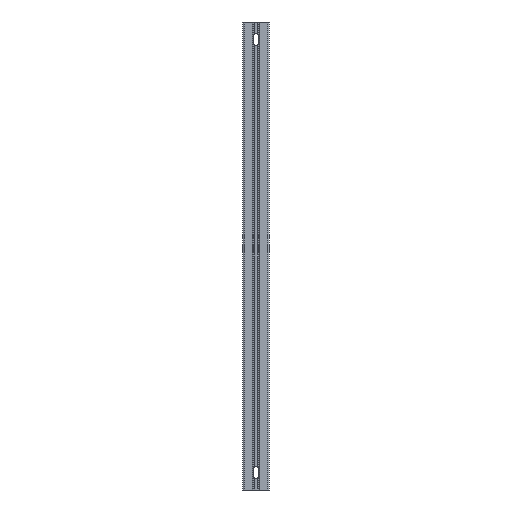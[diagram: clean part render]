
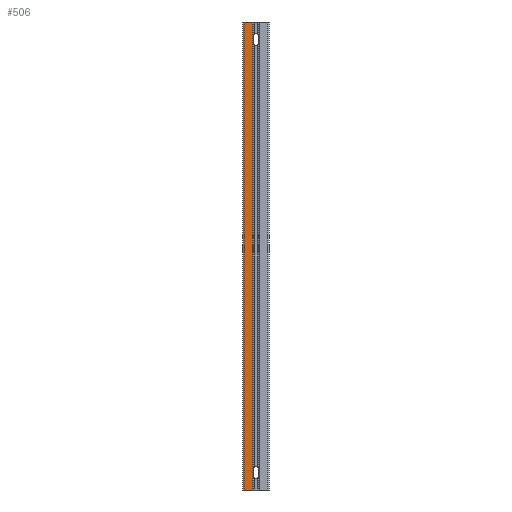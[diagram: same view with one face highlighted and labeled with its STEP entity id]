
A CAD part, left-side view. The second image highlights one B-rep face of the part: STEP entity #506.
In plain terms, the highlighted planar face has unit normal (-1, 0, 0).
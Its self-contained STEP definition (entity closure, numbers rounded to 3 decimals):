
#290=PLANE('',#4869);
#506=ADVANCED_FACE('',(#828),#290,.T.);
#828=FACE_OUTER_BOUND('',#1052,.T.);
#1052=EDGE_LOOP('',(#1548,#1549,#1550,#1551));
#1548=ORIENTED_EDGE('',*,*,#3357,.F.);
#1549=ORIENTED_EDGE('',*,*,#3358,.F.);
#1550=ORIENTED_EDGE('',*,*,#3359,.T.);
#1551=ORIENTED_EDGE('',*,*,#3355,.T.);
#2844=VERTEX_POINT('',#7096);
#2845=VERTEX_POINT('',#7098);
#2846=VERTEX_POINT('',#7102);
#2847=VERTEX_POINT('',#7104);
#3355=EDGE_CURVE('',#2845,#2844,#3936,.T.);
#3357=EDGE_CURVE('',#2846,#2844,#3937,.T.);
#3358=EDGE_CURVE('',#2847,#2846,#3938,.T.);
#3359=EDGE_CURVE('',#2847,#2845,#3939,.T.);
#3936=LINE('',#7097,#4392);
#3937=LINE('',#7101,#4393);
#3938=LINE('',#7103,#4394);
#3939=LINE('',#7105,#4395);
#4392=VECTOR('',#5521,1.);
#4393=VECTOR('',#5526,1.);
#4394=VECTOR('',#5527,1.);
#4395=VECTOR('',#5528,1.);
#4869=AXIS2_PLACEMENT_3D('',#7106,#5529,#5530);
#5521=DIRECTION('',(0.,0.,-1.));
#5526=DIRECTION('',(0.,1.,0.));
#5527=DIRECTION('',(0.,0.,-1.));
#5528=DIRECTION('',(0.,1.,0.));
#5529=DIRECTION('',(-1.,0.,0.));
#5530=DIRECTION('',(0.,-1.,0.));
#7096=CARTESIAN_POINT('',(-22.5,20.,-600.));
#7097=CARTESIAN_POINT('',(-22.5,20.,0.));
#7098=CARTESIAN_POINT('',(-22.5,20.,200.));
#7101=CARTESIAN_POINT('',(-22.5,6.2,-600.));
#7102=CARTESIAN_POINT('',(-22.5,6.2,-600.));
#7103=CARTESIAN_POINT('',(-22.5,6.2,0.));
#7104=CARTESIAN_POINT('',(-22.5,6.2,200.));
#7105=CARTESIAN_POINT('',(-22.5,6.2,200.));
#7106=CARTESIAN_POINT('',(-22.5,6.2,0.));
